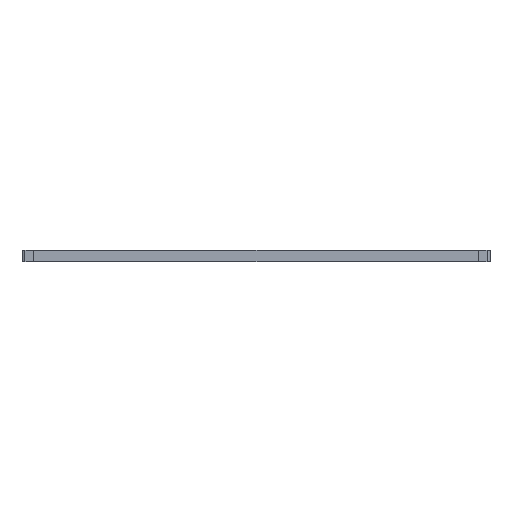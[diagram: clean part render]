
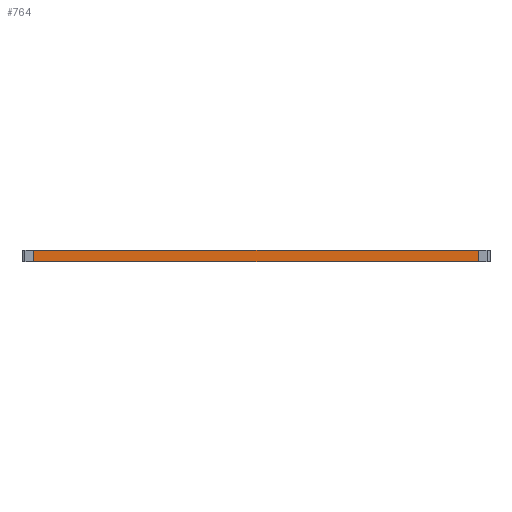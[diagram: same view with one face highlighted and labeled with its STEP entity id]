
A CAD part, left-side view. The second image highlights one B-rep face of the part: STEP entity #764.
In plain terms, the highlighted planar face has unit normal (-1, 0, 0).
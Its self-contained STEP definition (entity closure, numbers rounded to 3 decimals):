
#34=PLANE($,#840);
#47=LINE($,#1111,#123);
#85=LINE($,#1231,#161);
#93=LINE($,#1252,#169);
#111=LINE($,#1287,#187);
#123=VECTOR($,#881,451.9);
#161=VECTOR($,#983,451.9);
#169=VECTOR($,#1009,12.);
#187=VECTOR($,#1061,12.);
#228=FACE_OUTER_BOUND($,#270,.T.);
#270=EDGE_LOOP($,(#702,#703,#704,#705));
#324=VERTEX_POINT($,#1108);
#325=VERTEX_POINT($,#1110);
#374=VERTEX_POINT($,#1228);
#375=VERTEX_POINT($,#1230);
#400=EDGE_CURVE($,#324,#325,#47,.T.);
#460=EDGE_CURVE($,#375,#374,#85,.T.);
#471=EDGE_CURVE($,#375,#324,#93,.T.);
#489=EDGE_CURVE($,#374,#325,#111,.T.);
#702=ORIENTED_EDGE($,*,*,#460,.T.);
#703=ORIENTED_EDGE($,*,*,#489,.T.);
#704=ORIENTED_EDGE($,*,*,#400,.F.);
#705=ORIENTED_EDGE($,*,*,#471,.F.);
#764=ADVANCED_FACE($,(#228),#34,.T.);
#840=AXIS2_PLACEMENT_3D($,#1288,#1062,#1063);
#881=DIRECTION($,(0.,1.,0.));
#983=DIRECTION($,(0.,1.,0.));
#1009=DIRECTION($,(0.,0.,-1.));
#1061=DIRECTION($,(0.,0.,-1.));
#1062=DIRECTION('center_axis',(-1.,0.,0.));
#1063=DIRECTION('ref_axis',(0.,1.,0.));
#1108=CARTESIAN_POINT('',(-225.,-225.95,-12.));
#1110=CARTESIAN_POINT('',(-225.,225.95,-12.));
#1111=CARTESIAN_POINT($,(-225.,-225.95,-12.));
#1228=CARTESIAN_POINT('',(-225.,225.95,0.));
#1230=CARTESIAN_POINT('',(-225.,-225.95,0.));
#1231=CARTESIAN_POINT($,(-225.,-225.95,0.));
#1252=CARTESIAN_POINT($,(-225.,-225.95,0.));
#1287=CARTESIAN_POINT($,(-225.,225.95,0.));
#1288=CARTESIAN_POINT('Origin',(-225.,-225.95,0.));
